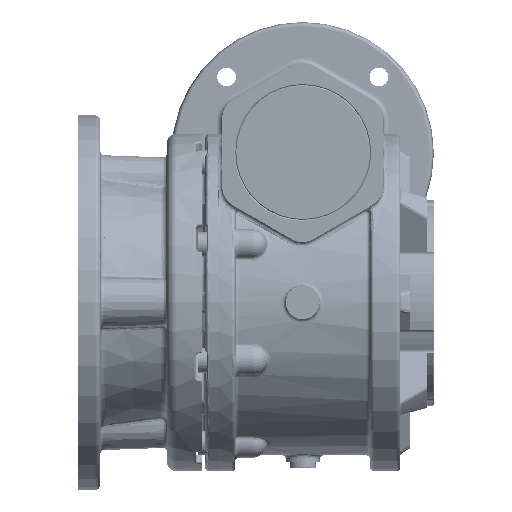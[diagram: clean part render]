
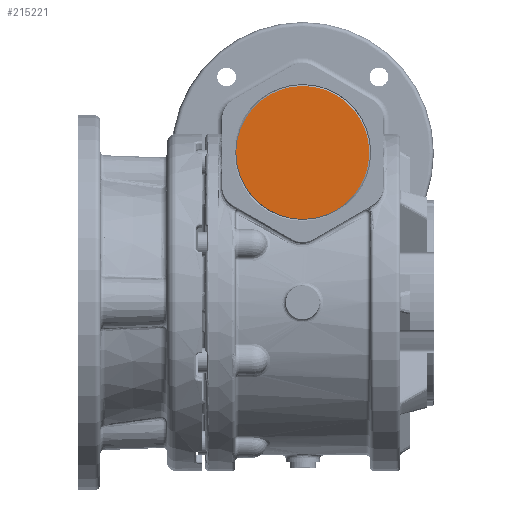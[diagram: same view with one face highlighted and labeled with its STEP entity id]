
A CAD part, top view. The second image highlights one B-rep face of the part: STEP entity #215221.
In plain terms, the highlighted planar face has unit normal (0, 0, 1).
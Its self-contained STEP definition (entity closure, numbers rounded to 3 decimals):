
#98782 = CARTESIAN_POINT ( 'NONE',  ( -6.133, 27.563, 95. ) ) ;
#98785 = CARTESIAN_POINT ( 'NONE',  ( -6.133, 98.563, 95. ) ) ;
#98789 = DIRECTION ( 'NONE',  ( 0., 1., 0. ) ) ;
#98792 = DIRECTION ( 'NONE',  ( 0., 0., -1. ) ) ;
#98794 = CARTESIAN_POINT ( 'NONE',  ( -6.133, 63.063, 95. ) ) ;
#98796 = AXIS2_PLACEMENT_3D ( 'NONE', #98794, #98792, #98789 ) ;
#98799 = CIRCLE ( 'NONE', #98796, 35.5 ) ;
#100177 = DIRECTION ( 'NONE',  ( 0., -1., 0. ) ) ;
#100180 = DIRECTION ( 'NONE',  ( 0., 0., 1. ) ) ;
#100182 = CARTESIAN_POINT ( 'NONE',  ( -6.133, 63.063, 95. ) ) ;
#100184 = AXIS2_PLACEMENT_3D ( 'NONE', #100182, #100180, #100177 ) ;
#100193 = PLANE ( 'NONE',  #100184 ) ;
#100197 = FACE_OUTER_BOUND ( 'NONE', #215228, .T. ) ;
#100468 = CARTESIAN_POINT ( 'NONE',  ( -6.133, 63.063, 95. ) ) ;
#100687 = DIRECTION ( 'NONE',  ( 0., 1., 0. ) ) ;
#100690 = DIRECTION ( 'NONE',  ( 0., 0., -1. ) ) ;
#100693 = AXIS2_PLACEMENT_3D ( 'NONE', #100468, #100690, #100687 ) ;
#100694 = CIRCLE ( 'NONE', #100693, 35.5 ) ;
#214100 = EDGE_CURVE ( 'NONE', #214113, #214118, #98799, .T. ) ;
#214113 = VERTEX_POINT ( 'NONE', #98785 ) ;
#214118 = VERTEX_POINT ( 'NONE', #98782 ) ;
#215221 = ADVANCED_FACE ( 'NONE', ( #100197 ), #100193, .T. ) ;
#215228 = EDGE_LOOP ( 'NONE', ( #215801, #215816 ) ) ;
#215600 = EDGE_CURVE ( 'NONE', #214118, #214113, #100694, .T. ) ;
#215801 = ORIENTED_EDGE ( 'NONE', *, *, #214100, .F. ) ;
#215816 = ORIENTED_EDGE ( 'NONE', *, *, #215600, .F. ) ;
